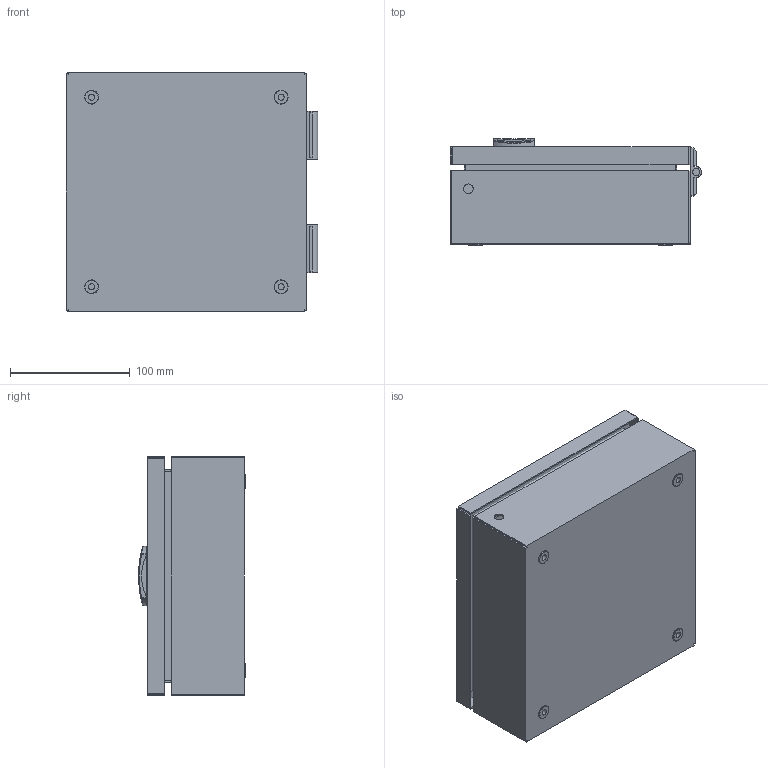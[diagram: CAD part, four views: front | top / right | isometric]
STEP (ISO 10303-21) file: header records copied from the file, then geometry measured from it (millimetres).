
FILE_DESCRIPTION(('Open CASCADE Model'),'2;1');
FILE_NAME('Open CASCADE Shape Model','2025-11-18T10:54:10',('Author'),( 'Open CASCADE'),'Open CASCADE STEP processor 7.8','Open CASCADE 7.8' ,'Unknown');
FILE_SCHEMA(('AUTOMOTIVE_DESIGN { 1 0 10303 214 1 1 1 1 }'));
Length unit declared in the file: millimetre
Products named in the file (21): Compound1; Compound2; Compound3; Solid1; Solid2; Solid3; Compound4; Compound5; Solid4; Solid5; Solid6; Compound6; Solid7; Solid8; Solid9; Solid10; Solid11; Solid12; Solid13; Solid14; Solid15
Assembly tree (35 placements, depth 5):
  Compound1
    Compound2
      Compound3
        Solid1
        Solid2  x2
        Solid3
      Compound4
        Compound5
          Solid4
          Solid3
        Solid5
        Solid6
        Compound6
          Solid7
          Solid8
          Solid9
          Solid10
      Solid11  x2
      Solid12  x4
      Solid13  x4
      Solid14  x4
    Solid15  x4
Bounding box: 209.4 x 89.04 x 200 mm (x, y, z)
Volume: 313526.6 mm3; surface area: 410132.9 mm2
Topology: 36 solids, 36 shells, 1144 faces, 2841 edges, 1800 vertices
Faces by surface type: plane 549, cylinder 226, bspline 205, cone 94, torus 53, sphere 17
Full cylindrical faces by diameter (mm): 3.2 x4, 4 x18, 4.2 x8, 5 x13, 5.15 x4, 5.5 x4, 5.8 x2, 5.857 x8, 6 x5, 7.5 x2, 8 x9, 8.4 x4, 9.6 x1, 11.5 x4, 12 x1, 12.7 x1, 15.6 x1
Entity records: 38144 total; most frequent: CARTESIAN_POINT 18683, ORIENTED_EDGE 4324, DIRECTION 3349, EDGE_CURVE 2162, VERTEX_POINT 1389, AXIS2_PLACEMENT_3D 1200, FACE_BOUND 953, EDGE_LOOP 953
